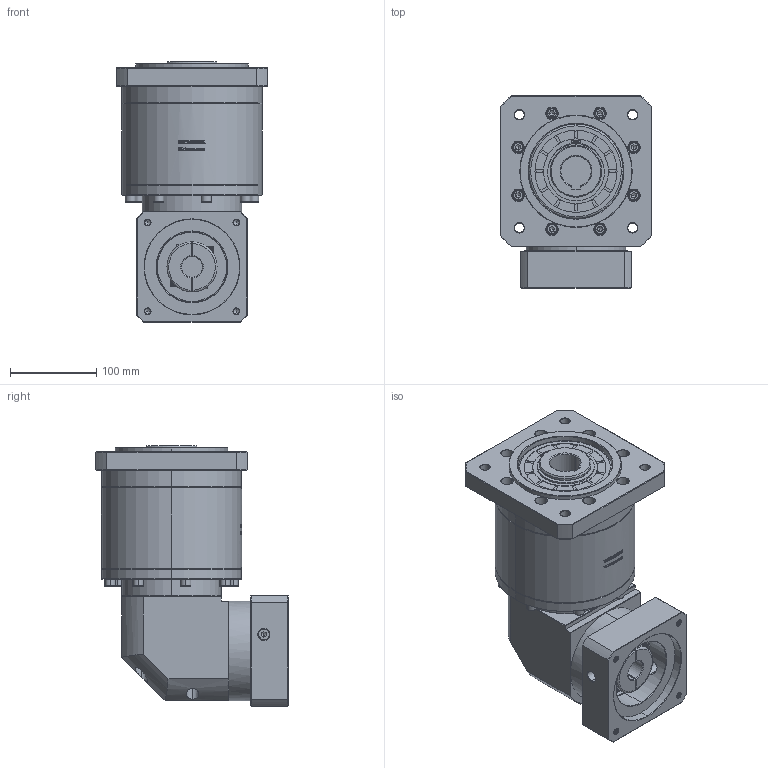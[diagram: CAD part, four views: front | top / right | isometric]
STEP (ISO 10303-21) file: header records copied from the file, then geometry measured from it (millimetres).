
FILE_DESCRIPTION (( 'STEP AP214' ), '1' );
FILE_NAME ('ZFR160A-K35-L3-24-110-145-M8.step', '2023-03-25T02:01:01', ( '' ), ( '' ), 'SwSTEP 2.0', 'SolidWorks 2016', '' );
FILE_SCHEMA (( 'AUTOMOTIVE_DESIGN' ));
Length unit declared in the file: millimetre
Products named in the file (1): ZFR160A-K35-L3-24-110-145-M8
Bounding box: 175 x 222.4 x 301.2 mm (x, y, z)
Volume: 5565622.7 mm3; surface area: 361232.7 mm2
Topology: 6 solids, 6 shells, 2724 faces, 7116 edges, 4564 vertices
Faces by surface type: plane 1366, bspline 490, cylinder 459, cone 365, torus 44
Entity records: 143578 total; most frequent: CARTESIAN_POINT 50800, ORIENTED_EDGE 14128, DIRECTION 11197, EDGE_CURVE 7064, VERTEX_POINT 4564, VECTOR 4445, LINE 4445, AXIS2_PLACEMENT_3D 3376
